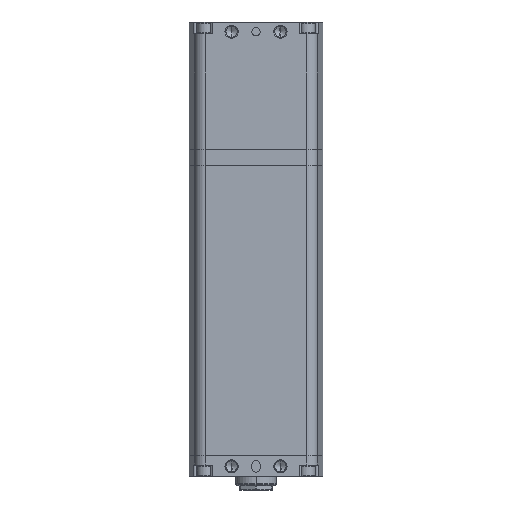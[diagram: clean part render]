
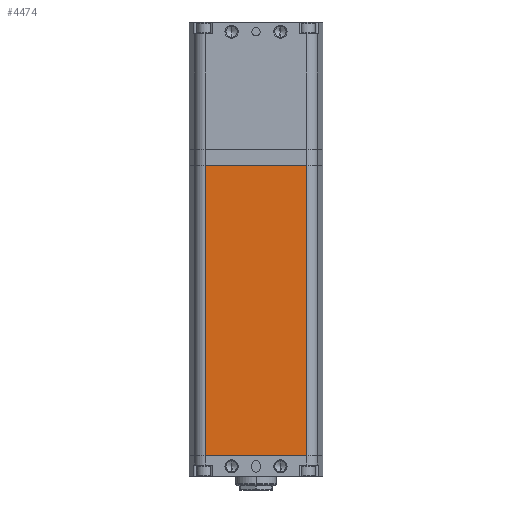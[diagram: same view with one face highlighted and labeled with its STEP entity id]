
A CAD part, front view. The second image highlights one B-rep face of the part: STEP entity #4474.
In plain terms, the highlighted planar face has unit normal (0, -1, 0).
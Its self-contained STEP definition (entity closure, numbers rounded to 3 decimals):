
#183 = EDGE_CURVE ( 'NONE', #8803, #22166, #10275, .T. ) ;
#478 = EDGE_CURVE ( 'NONE', #22166, #7650, #18718, .T. ) ;
#1014 = VECTOR ( 'NONE', #1986, 1000. ) ;
#1262 = FACE_OUTER_BOUND ( 'NONE', #11551, .T. ) ;
#1441 = VERTEX_POINT ( 'NONE', #13818 ) ;
#1868 = CARTESIAN_POINT ( 'NONE',  ( -41., -41., -251. ) ) ;
#1986 = DIRECTION ( 'NONE',  ( 1., 0., 0. ) ) ;
#3241 = DIRECTION ( 'NONE',  ( 1., 0., 0. ) ) ;
#3339 = DIRECTION ( 'NONE',  ( 0., 0., -1. ) ) ;
#4244 = AXIS2_PLACEMENT_3D ( 'NONE', #5029, #6741, #3339 ) ;
#4474 = ADVANCED_FACE ( 'NONE', ( #1262 ), #12587, .T. ) ;
#4656 = VECTOR ( 'NONE', #3241, 1000. ) ;
#4705 = DIRECTION ( 'NONE',  ( 0., 0., 1. ) ) ;
#5029 = CARTESIAN_POINT ( 'NONE',  ( -41., -41., -1073. ) ) ;
#5182 = LINE ( 'NONE', #6897, #4656 ) ;
#6741 = DIRECTION ( 'NONE',  ( 0., -1., 0. ) ) ;
#6897 = CARTESIAN_POINT ( 'NONE',  ( -41., -41., -73. ) ) ;
#6949 = EDGE_CURVE ( 'NONE', #7650, #1441, #23524, .T. ) ;
#7650 = VERTEX_POINT ( 'NONE', #11836 ) ;
#7976 = CARTESIAN_POINT ( 'NONE',  ( -31.138, -41., -1073. ) ) ;
#8803 = VERTEX_POINT ( 'NONE', #17446 ) ;
#10275 = LINE ( 'NONE', #7976, #21034 ) ;
#11551 = EDGE_LOOP ( 'NONE', ( #22074, #11915, #17713, #22043 ) ) ;
#11836 = CARTESIAN_POINT ( 'NONE',  ( 31.138, -41., -251. ) ) ;
#11915 = ORIENTED_EDGE ( 'NONE', *, *, #478, .T. ) ;
#12034 = CARTESIAN_POINT ( 'NONE',  ( 31.138, -41., -1073. ) ) ;
#12587 = PLANE ( 'NONE',  #4244 ) ;
#13818 = CARTESIAN_POINT ( 'NONE',  ( 31.138, -41., -73. ) ) ;
#17235 = VECTOR ( 'NONE', #4705, 1000. ) ;
#17446 = CARTESIAN_POINT ( 'NONE',  ( -31.138, -41., -73. ) ) ;
#17713 = ORIENTED_EDGE ( 'NONE', *, *, #6949, .T. ) ;
#18654 = EDGE_CURVE ( 'NONE', #8803, #1441, #5182, .T. ) ;
#18718 = LINE ( 'NONE', #1868, #1014 ) ;
#19226 = DIRECTION ( 'NONE',  ( 0., 0., -1. ) ) ;
#21034 = VECTOR ( 'NONE', #19226, 1000. ) ;
#21576 = CARTESIAN_POINT ( 'NONE',  ( -31.138, -41., -251. ) ) ;
#22043 = ORIENTED_EDGE ( 'NONE', *, *, #18654, .F. ) ;
#22074 = ORIENTED_EDGE ( 'NONE', *, *, #183, .T. ) ;
#22166 = VERTEX_POINT ( 'NONE', #21576 ) ;
#23524 = LINE ( 'NONE', #12034, #17235 ) ;
